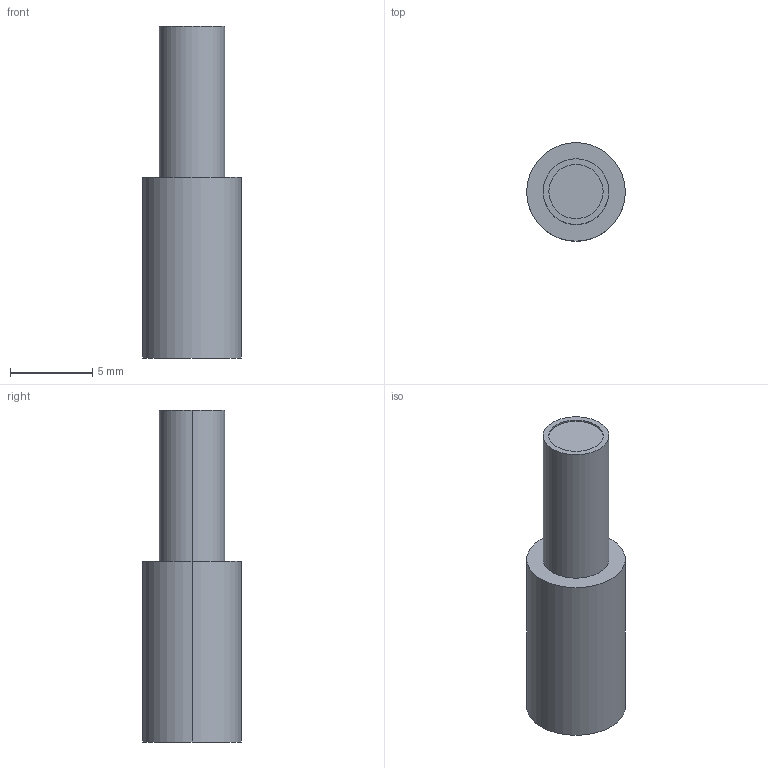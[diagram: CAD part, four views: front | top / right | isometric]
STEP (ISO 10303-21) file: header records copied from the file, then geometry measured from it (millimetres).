
FILE_DESCRIPTION (( 'STEP AP203' ), '1' );
FILE_NAME ('FX-MR1.STEP', '2005-09-08T02:46:10', ( '' ), ( '' ), 'SwSTEP 2.0', 'SolidWorks 2004073', '' );
FILE_SCHEMA (( 'CONFIG_CONTROL_DESIGN' ));
Length unit declared in the file: millimetre
Products named in the file (1): FX-MR1
Bounding box: 6 x 6 x 20.2 mm (x, y, z)
Volume: 350.4 mm3; surface area: 455.9 mm2
Topology: 1 solids, 1 shells, 13 faces, 24 edges, 16 vertices
Faces by surface type: cylinder 8, plane 5
Entity records: 411 total; most frequent: DIRECTION 68, CARTESIAN_POINT 54, ORIENTED_EDGE 48, AXIS2_PLACEMENT_3D 30, EDGE_CURVE 24, VERTEX_POINT 16, EDGE_LOOP 16, CIRCLE 16
